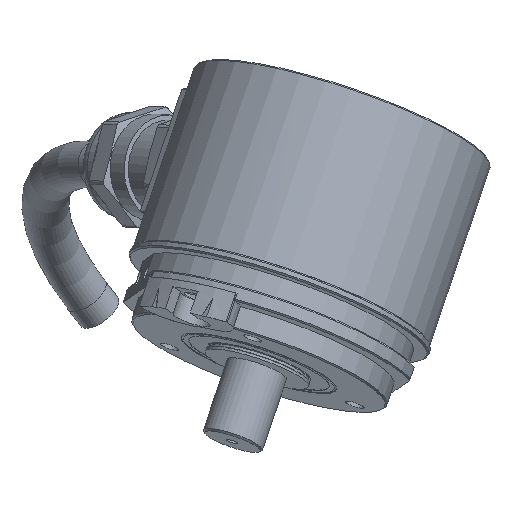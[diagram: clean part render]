
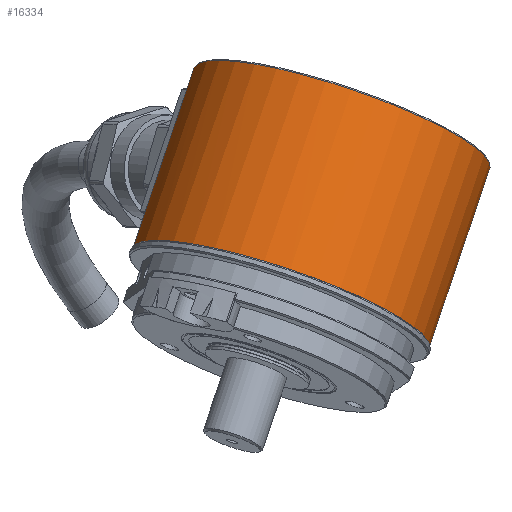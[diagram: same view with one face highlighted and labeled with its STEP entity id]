
A CAD part, front view. The second image highlights one B-rep face of the part: STEP entity #16334.
In plain terms, the highlighted cylindrical face has radius 20 mm (diameter 40 mm), a full revolution.
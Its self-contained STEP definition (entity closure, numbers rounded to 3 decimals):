
#1682=CYLINDRICAL_SURFACE('',#17957,20.);
#2106=FACE_OUTER_BOUND('',#3185,.T.);
#3185=EDGE_LOOP('',(#12072,#12073,#12074,#12075,#12076,#12077,#12078,#12079,
#12080));
#4335=LINE('',#25679,#5613);
#4336=LINE('',#25683,#5614);
#4337=LINE('',#25687,#5615);
#5613=VECTOR('',#20281,10.);
#5614=VECTOR('',#20286,10.);
#5615=VECTOR('',#20289,20.);
#6922=CIRCLE('',#17948,20.);
#6927=CIRCLE('',#17958,20.);
#6928=CIRCLE('',#17959,20.);
#6929=CIRCLE('',#17960,20.);
#6930=CIRCLE('',#17961,20.);
#7901=VERTEX_POINT('',#25643);
#7903=VERTEX_POINT('',#25646);
#7915=VERTEX_POINT('',#25678);
#7916=VERTEX_POINT('',#25682);
#7917=VERTEX_POINT('',#25684);
#7918=VERTEX_POINT('',#25686);
#7919=VERTEX_POINT('',#25688);
#9540=EDGE_CURVE('',#7903,#7901,#6922,.T.);
#9556=EDGE_CURVE('',#7903,#7915,#4335,.T.);
#9558=EDGE_CURVE('',#7901,#7916,#4336,.T.);
#9559=EDGE_CURVE('',#7917,#7916,#6927,.T.);
#9560=EDGE_CURVE('',#7917,#7918,#4337,.T.);
#9561=EDGE_CURVE('',#7919,#7918,#6928,.T.);
#9562=EDGE_CURVE('',#7918,#7919,#6929,.T.);
#9563=EDGE_CURVE('',#7915,#7917,#6930,.T.);
#12072=ORIENTED_EDGE('',*,*,#9558,.T.);
#12073=ORIENTED_EDGE('',*,*,#9559,.F.);
#12074=ORIENTED_EDGE('',*,*,#9560,.T.);
#12075=ORIENTED_EDGE('',*,*,#9561,.F.);
#12076=ORIENTED_EDGE('',*,*,#9562,.F.);
#12077=ORIENTED_EDGE('',*,*,#9560,.F.);
#12078=ORIENTED_EDGE('',*,*,#9563,.F.);
#12079=ORIENTED_EDGE('',*,*,#9556,.F.);
#12080=ORIENTED_EDGE('',*,*,#9540,.T.);
#16334=ADVANCED_FACE('',(#2106),#1682,.T.);
#17948=AXIS2_PLACEMENT_3D('',#25647,#20253,#20254);
#17957=AXIS2_PLACEMENT_3D('',#25681,#20284,#20285);
#17958=AXIS2_PLACEMENT_3D('',#25685,#20287,#20288);
#17959=AXIS2_PLACEMENT_3D('',#25689,#20290,#20291);
#17960=AXIS2_PLACEMENT_3D('',#25690,#20292,#20293);
#17961=AXIS2_PLACEMENT_3D('',#25691,#20294,#20295);
#20253=DIRECTION('center_axis',(0.,0.,1.));
#20254=DIRECTION('ref_axis',(-0.5,-0.866,0.));
#20281=DIRECTION('',(0.,0.,-1.));
#20284=DIRECTION('center_axis',(0.,0.,-1.));
#20285=DIRECTION('ref_axis',(-0.432,0.902,0.));
#20286=DIRECTION('',(0.,0.,-1.));
#20287=DIRECTION('center_axis',(0.,0.,-1.));
#20288=DIRECTION('ref_axis',(0.432,-0.902,0.));
#20289=DIRECTION('',(0.,0.,1.));
#20290=DIRECTION('center_axis',(0.,0.,1.));
#20291=DIRECTION('ref_axis',(-0.432,0.902,0.));
#20292=DIRECTION('center_axis',(0.,0.,1.));
#20293=DIRECTION('ref_axis',(-0.432,0.902,0.));
#20294=DIRECTION('center_axis',(0.,0.,-1.));
#20295=DIRECTION('ref_axis',(0.432,-0.902,0.));
#25643=CARTESIAN_POINT('',(-8.636,18.039,-8.));
#25646=CARTESIAN_POINT('',(8.636,18.039,-8.));
#25647=CARTESIAN_POINT('Origin',(0.,0.,-8.));
#25678=CARTESIAN_POINT('',(8.636,18.039,-24.8));
#25679=CARTESIAN_POINT('',(8.636,18.039,0.));
#25681=CARTESIAN_POINT('Origin',(0.,0.,0.));
#25682=CARTESIAN_POINT('',(-8.636,18.039,-24.8));
#25683=CARTESIAN_POINT('',(-8.636,18.039,0.));
#25684=CARTESIAN_POINT('',(8.636,-18.039,-24.8));
#25685=CARTESIAN_POINT('Origin',(0.,0.,-24.8));
#25686=CARTESIAN_POINT('',(8.636,-18.039,0.));
#25687=CARTESIAN_POINT('',(8.636,-18.039,0.));
#25688=CARTESIAN_POINT('',(-8.636,18.039,0.));
#25689=CARTESIAN_POINT('Origin',(0.,0.,0.));
#25690=CARTESIAN_POINT('Origin',(0.,0.,0.));
#25691=CARTESIAN_POINT('Origin',(0.,0.,-24.8));
